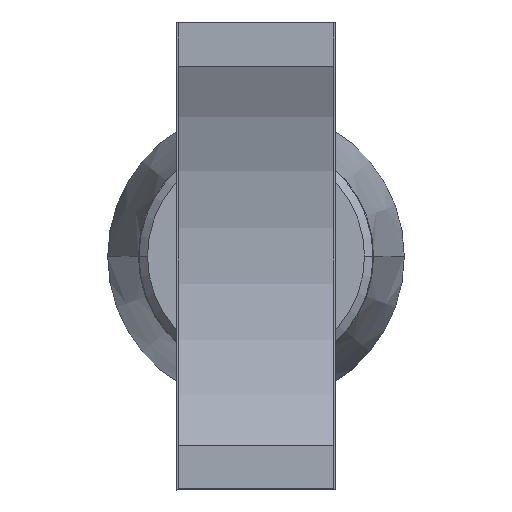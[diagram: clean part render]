
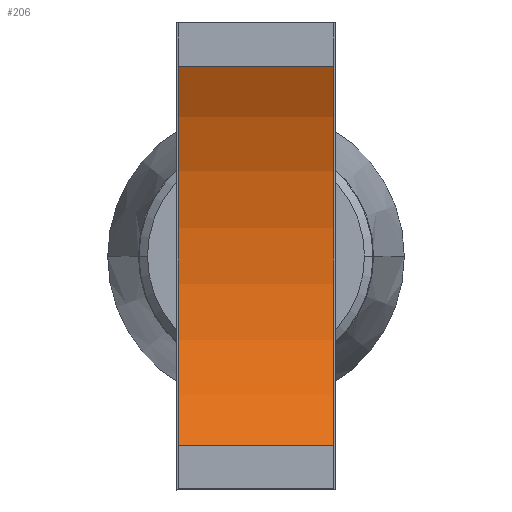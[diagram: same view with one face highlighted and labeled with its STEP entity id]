
A CAD part, top view. The second image highlights one B-rep face of the part: STEP entity #206.
In plain terms, the highlighted cylindrical face has radius 177.8 mm (diameter 355.6 mm), a partial arc.
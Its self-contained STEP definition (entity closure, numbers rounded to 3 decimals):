
#206=ADVANCED_FACE('',(#505),#506,.F.);
#505=FACE_OUTER_BOUND('',#935,.T.);
#506=CYLINDRICAL_SURFACE('',#936,177.8);
#935=EDGE_LOOP('',(#1339,#1340,#1341,#1342));
#936=AXIS2_PLACEMENT_3D('',#1343,#1344,#1345);
#1339=ORIENTED_EDGE('',*,*,#2472,.T.);
#1340=ORIENTED_EDGE('',*,*,#2473,.F.);
#1341=ORIENTED_EDGE('',*,*,#2474,.T.);
#1342=ORIENTED_EDGE('',*,*,#2469,.T.);
#1343=CARTESIAN_POINT('',(413.737,467.575,166.9));
#1344=DIRECTION('',(-1.0,0.,0.));
#1345=DIRECTION('',(0.,-1.0,0.));
#2469=EDGE_CURVE('',#2920,#2918,#2921,.T.);
#2472=EDGE_CURVE('',#2918,#2924,#2925,.T.);
#2473=EDGE_CURVE('',#2926,#2924,#2927,.T.);
#2474=EDGE_CURVE('',#2926,#2920,#2928,.T.);
#2918=VERTEX_POINT('',#3570);
#2920=VERTEX_POINT('',#3573);
#2921=LINE('',#3574,#3575);
#2924=VERTEX_POINT('',#3579);
#2925=CIRCLE('',#3580,177.8);
#2926=VERTEX_POINT('',#3581);
#2927=LINE('',#3582,#3583);
#2928=CIRCLE('',#3584,177.8);
#3570=CARTESIAN_POINT('',(340.737,556.785,13.1));
#3573=CARTESIAN_POINT('',(413.737,556.785,13.1));
#3574=CARTESIAN_POINT('',(413.737,556.785,13.1));
#3575=VECTOR('',#5125,1.0);
#3579=CARTESIAN_POINT('',(340.737,378.365,13.1));
#3580=AXIS2_PLACEMENT_3D('',#5127,#5128,#5129);
#3581=CARTESIAN_POINT('',(413.737,378.365,13.1));
#3582=CARTESIAN_POINT('',(413.737,378.365,13.1));
#3583=VECTOR('',#5130,1.0);
#3584=AXIS2_PLACEMENT_3D('',#5131,#5132,#5133);
#5125=DIRECTION('',(-1.0,0.,0.));
#5127=CARTESIAN_POINT('',(340.737,467.575,166.9));
#5128=DIRECTION('',(-1.0,0.,0.));
#5129=DIRECTION('',(0.,-1.0,0.));
#5130=DIRECTION('',(-1.0,0.,0.));
#5131=CARTESIAN_POINT('',(413.737,467.575,166.9));
#5132=DIRECTION('',(1.0,0.,0.));
#5133=DIRECTION('',(0.,-1.0,0.));
